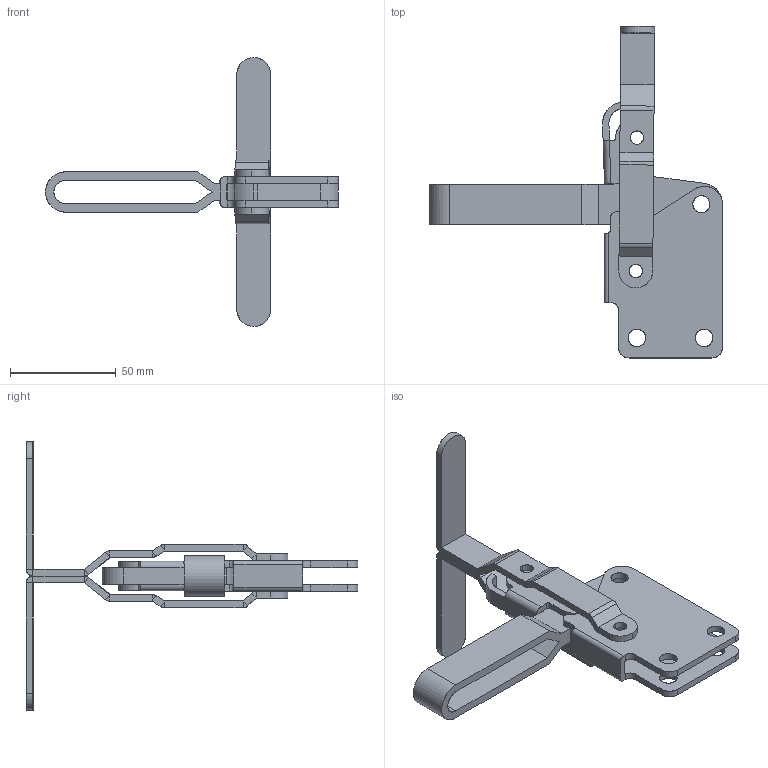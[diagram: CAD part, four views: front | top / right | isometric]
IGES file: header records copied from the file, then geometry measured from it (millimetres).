
Start section: SolidWorks IGES file using analytic representation for surfaces
Global section: file name: D:\GH Files\GH-SW-FILES\GH1\GH-12265,70,75,80,85,90,95,12300\12290\GH-12290.IGS; native system: SolidWorks 2006 by SolidWorks Corporation; preprocessor: SolidWorks 2006 by SolidWorks Corporation; author: Administrator; date: 060825.155728; units: millimetre
Bounding box: 138.51 x 156.76 x 127 mm (x, y, z)
Surface area: 47677.1 mm2 (no closed solid volume)
Topology: 0 solids, 0 shells, 258 faces, 3252 edges, 3252 vertices
Faces by surface type: bspline 142, revolution 116
